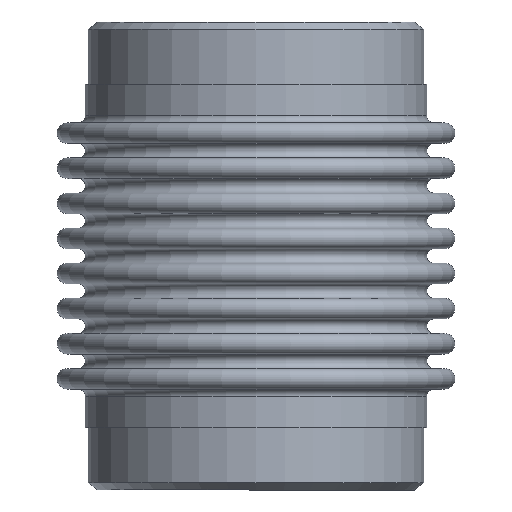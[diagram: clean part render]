
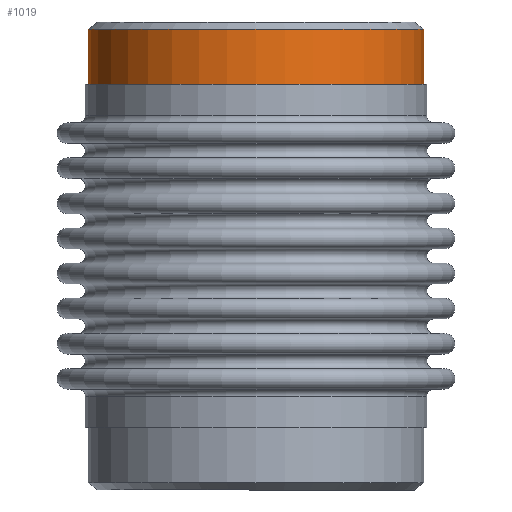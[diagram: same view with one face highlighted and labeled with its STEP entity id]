
A CAD part, front view. The second image highlights one B-rep face of the part: STEP entity #1019.
In plain terms, the highlighted cylindrical face has radius 136.525 mm (diameter 273.05 mm), a full revolution.
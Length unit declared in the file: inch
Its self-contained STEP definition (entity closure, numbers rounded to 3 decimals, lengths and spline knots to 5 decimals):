
#36=LINE('',#1966,#43);
#43=VECTOR('',#1666,5.375);
#49=CYLINDRICAL_SURFACE('',#1263,5.375);
#210=FACE_OUTER_BOUND('',#329,.T.);
#329=EDGE_LOOP('',(#889,#890,#891,#892,#893));
#445=CIRCLE('',#1260,5.375);
#446=CIRCLE('',#1261,5.375);
#448=CIRCLE('',#1264,5.375);
#527=VERTEX_POINT('',#1957);
#528=VERTEX_POINT('',#1958);
#530=VERTEX_POINT('',#1965);
#647=EDGE_CURVE('',#527,#528,#445,.T.);
#648=EDGE_CURVE('',#528,#527,#446,.T.);
#651=EDGE_CURVE('',#528,#530,#36,.T.);
#652=EDGE_CURVE('',#530,#530,#448,.T.);
#889=ORIENTED_EDGE('',*,*,#647,.F.);
#890=ORIENTED_EDGE('',*,*,#648,.F.);
#891=ORIENTED_EDGE('',*,*,#651,.T.);
#892=ORIENTED_EDGE('',*,*,#652,.T.);
#893=ORIENTED_EDGE('',*,*,#651,.F.);
#1019=ADVANCED_FACE('',(#210),#49,.T.);
#1260=AXIS2_PLACEMENT_3D('',#1959,#1657,#1658);
#1261=AXIS2_PLACEMENT_3D('',#1960,#1659,#1660);
#1263=AXIS2_PLACEMENT_3D('',#1964,#1664,#1665);
#1264=AXIS2_PLACEMENT_3D('',#1967,#1667,#1668);
#1657=DIRECTION('center_axis',(0.,0.,1.));
#1658=DIRECTION('ref_axis',(-1.,0.,0.));
#1659=DIRECTION('center_axis',(0.,0.,1.));
#1660=DIRECTION('ref_axis',(-1.,0.,0.));
#1664=DIRECTION('center_axis',(0.,0.,1.));
#1665=DIRECTION('ref_axis',(1.,0.,0.));
#1666=DIRECTION('',(0.,0.,-1.));
#1667=DIRECTION('center_axis',(0.,0.,1.));
#1668=DIRECTION('ref_axis',(1.,0.,0.));
#1957=CARTESIAN_POINT('',(5.375,0.,1.26788));
#1958=CARTESIAN_POINT('',(-5.375,0.,1.26788));
#1959=CARTESIAN_POINT('Origin',(0.,0.,1.26788));
#1960=CARTESIAN_POINT('Origin',(0.,0.,1.26788));
#1964=CARTESIAN_POINT('Origin',(0.,0.,0.));
#1965=CARTESIAN_POINT('',(-5.375,0.,-1.5));
#1966=CARTESIAN_POINT('',(-5.375,0.,0.));
#1967=CARTESIAN_POINT('Origin',(0.,0.,-1.5));
